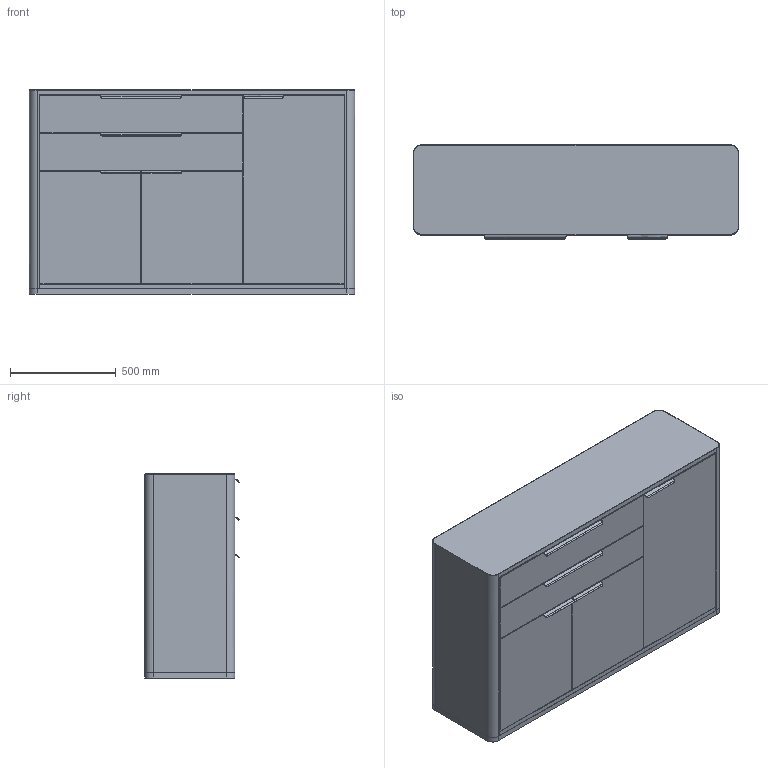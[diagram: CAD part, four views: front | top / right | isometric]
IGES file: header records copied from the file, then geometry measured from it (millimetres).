
Start section: Comment
Global section: file name: S50-H5-3-V02- Schublade - Sockel.igs; native system:  By UGS Corp.; preprocessor: XPlus GENERIC/IGES 3.0; author: Author; organization: Title; date: 20221026.142516; units: inch
Bounding box: 1537 x 445.33 x 964.6 mm (x, y, z)
Surface area: 6942448 mm2 (no closed solid volume)
Topology: 0 solids, 0 shells, 198 faces, 1008 edges, 1008 vertices
Faces by surface type: bspline 198
